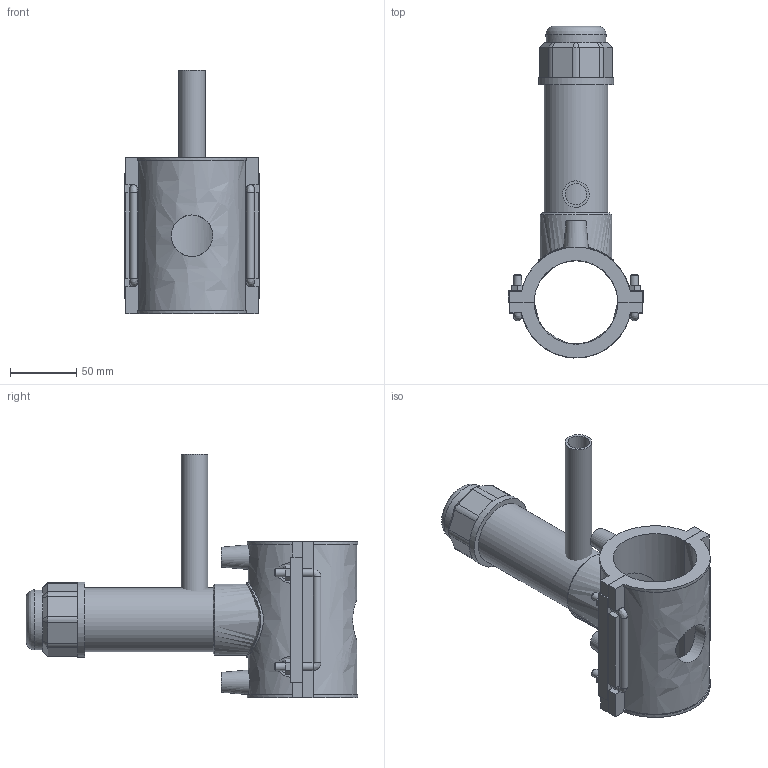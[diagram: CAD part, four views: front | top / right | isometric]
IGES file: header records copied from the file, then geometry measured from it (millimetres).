
Global section: file name: 4963P4063020; native system: Autodesk Inventor 2019; preprocessor: unknown; author: KIM; date: 20220317.112522; units: millimetre
Bounding box: 102 x 250.24 x 184 mm (x, y, z)
Volume: 507043 mm3; surface area: 145943.3 mm2
Topology: 3 solids, 3 shells, 186 faces, 485 edges, 312 vertices
Faces by surface type: bspline 186
